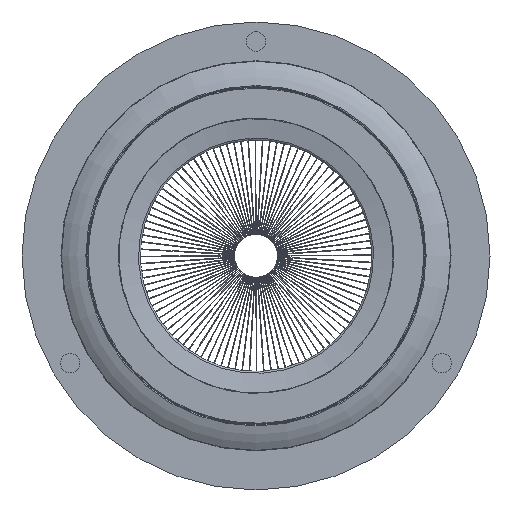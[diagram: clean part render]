
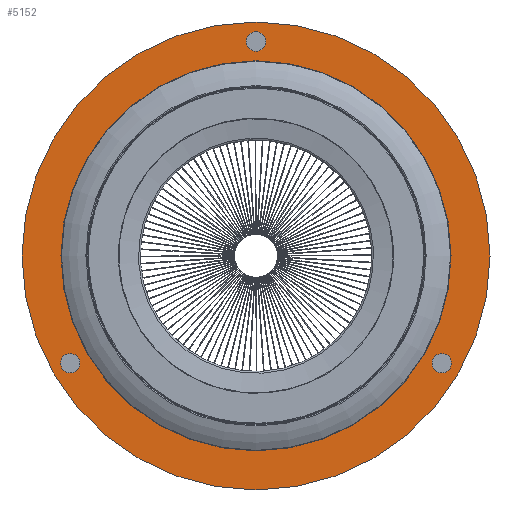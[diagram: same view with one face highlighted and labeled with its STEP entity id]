
A CAD part, top view. The second image highlights one B-rep face of the part: STEP entity #5152.
In plain terms, the highlighted planar face has unit normal (0, 0, 1).
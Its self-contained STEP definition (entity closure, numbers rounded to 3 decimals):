
#2006=CARTESIAN_POINT('',(-40.618,-24.75,5.0));
#2007=VERTEX_POINT('',#2006);
#2023=CARTESIAN_POINT('',(-42.868,-24.75,5.));
#2024=DIRECTION('',(0.0,0.0,-1.0));
#2025=DIRECTION('',(-1.0,0.0,0.0));
#2026=AXIS2_PLACEMENT_3D('',#2023,#2024,#2025);
#2027=CIRCLE('',#2026,2.25);
#2028=EDGE_CURVE('',#2007,#2007,#2027,.T.);
#2058=CARTESIAN_POINT('',(2.25,49.5,5.0));
#2059=VERTEX_POINT('',#2058);
#2075=CARTESIAN_POINT('',(0.,49.5,5.));
#2076=DIRECTION('',(0.0,0.0,-1.0));
#2077=DIRECTION('',(-1.0,0.0,0.0));
#2078=AXIS2_PLACEMENT_3D('',#2075,#2076,#2077);
#2079=CIRCLE('',#2078,2.25);
#2080=EDGE_CURVE('',#2059,#2059,#2079,.T.);
#2116=CARTESIAN_POINT('',(40.618,-24.75,5.));
#2117=VERTEX_POINT('',#2116);
#2156=CARTESIAN_POINT('',(-35.757,18.163,5.));
#2157=VERTEX_POINT('',#2156);
#2167=CARTESIAN_POINT('',(-35.757,-18.163,5.));
#2168=VERTEX_POINT('',#2167);
#2169=CARTESIAN_POINT('',(0.,0.0,5.0));
#2170=DIRECTION('',(0.0,0.0,-1.0));
#2171=DIRECTION('',(-1.0,0.0,0.0));
#2172=AXIS2_PLACEMENT_3D('',#2169,#2170,#2171);
#2173=CIRCLE('',#2172,40.105);
#2174=EDGE_CURVE('',#2168,#2157,#2173,.T.);
#2208=CARTESIAN_POINT('',(-33.608,-21.885,5.));
#2209=VERTEX_POINT('',#2208);
#2217=CARTESIAN_POINT('',(-2.149,-40.048,5.0));
#2218=VERTEX_POINT('',#2217);
#2219=CARTESIAN_POINT('',(0.,0.0,5.0));
#2220=DIRECTION('',(0.0,0.0,-1.0));
#2221=DIRECTION('',(-1.0,0.0,0.0));
#2222=AXIS2_PLACEMENT_3D('',#2219,#2220,#2221);
#2223=CIRCLE('',#2222,40.105);
#2224=EDGE_CURVE('',#2218,#2209,#2223,.T.);
#2258=CARTESIAN_POINT('',(2.149,-40.048,5.0));
#2259=VERTEX_POINT('',#2258);
#2267=CARTESIAN_POINT('',(33.608,-21.885,5.));
#2268=VERTEX_POINT('',#2267);
#2269=CARTESIAN_POINT('',(0.,0.0,5.0));
#2270=DIRECTION('',(0.0,0.0,-1.0));
#2271=DIRECTION('',(-1.0,0.0,0.0));
#2272=AXIS2_PLACEMENT_3D('',#2269,#2270,#2271);
#2273=CIRCLE('',#2272,40.105);
#2274=EDGE_CURVE('',#2268,#2259,#2273,.T.);
#2308=CARTESIAN_POINT('',(35.757,-18.163,5.));
#2309=VERTEX_POINT('',#2308);
#2317=CARTESIAN_POINT('',(35.757,18.163,5.));
#2318=VERTEX_POINT('',#2317);
#2319=CARTESIAN_POINT('',(0.,0.0,5.0));
#2320=DIRECTION('',(0.0,0.0,-1.0));
#2321=DIRECTION('',(-1.0,0.0,0.0));
#2322=AXIS2_PLACEMENT_3D('',#2319,#2320,#2321);
#2323=CIRCLE('',#2322,40.105);
#2324=EDGE_CURVE('',#2318,#2309,#2323,.T.);
#2358=CARTESIAN_POINT('',(33.608,21.885,5.));
#2359=VERTEX_POINT('',#2358);
#2367=CARTESIAN_POINT('',(2.149,40.048,5.0));
#2368=VERTEX_POINT('',#2367);
#2369=CARTESIAN_POINT('',(0.,0.0,5.0));
#2370=DIRECTION('',(0.0,0.0,-1.0));
#2371=DIRECTION('',(-1.0,0.0,0.0));
#2372=AXIS2_PLACEMENT_3D('',#2369,#2370,#2371);
#2373=CIRCLE('',#2372,40.105);
#2374=EDGE_CURVE('',#2368,#2359,#2373,.T.);
#2408=CARTESIAN_POINT('',(-2.149,40.048,5.0));
#2409=VERTEX_POINT('',#2408);
#2417=CARTESIAN_POINT('',(-33.608,21.885,5.));
#2418=VERTEX_POINT('',#2417);
#2419=CARTESIAN_POINT('',(0.,0.0,5.0));
#2420=DIRECTION('',(0.0,0.0,-1.0));
#2421=DIRECTION('',(-1.0,0.0,0.0));
#2422=AXIS2_PLACEMENT_3D('',#2419,#2420,#2421);
#2423=CIRCLE('',#2422,40.105);
#2424=EDGE_CURVE('',#2418,#2409,#2423,.T.);
#2510=CARTESIAN_POINT('',(-38.947,20.004,5.));
#2511=VERTEX_POINT('',#2510);
#2518=CARTESIAN_POINT('',(-38.947,20.004,5.));
#2519=DIRECTION('',(0.866,-0.5,0.0));
#2520=VECTOR('',#2519,3.683);
#2521=LINE('',#2518,#2520);
#2522=EDGE_CURVE('',#2511,#2157,#2521,.T.);
#2572=CARTESIAN_POINT('',(-36.798,23.727,5.));
#2573=VERTEX_POINT('',#2572);
#2574=CARTESIAN_POINT('',(-33.608,21.885,5.));
#2575=DIRECTION('',(-0.866,0.5,0.0));
#2576=VECTOR('',#2575,3.683);
#2577=LINE('',#2574,#2576);
#2578=EDGE_CURVE('',#2418,#2573,#2577,.T.);
#2638=CARTESIAN_POINT('',(-2.149,43.731,5.));
#2639=VERTEX_POINT('',#2638);
#2646=CARTESIAN_POINT('',(-2.149,43.731,5.0));
#2647=DIRECTION('',(0.0,-1.0,0.0));
#2648=VECTOR('',#2647,3.683);
#2649=LINE('',#2646,#2648);
#2650=EDGE_CURVE('',#2639,#2409,#2649,.T.);
#2700=CARTESIAN_POINT('',(2.149,43.731,5.));
#2701=VERTEX_POINT('',#2700);
#2702=CARTESIAN_POINT('',(2.149,40.048,5.0));
#2703=DIRECTION('',(0.0,1.0,0.0));
#2704=VECTOR('',#2703,3.683);
#2705=LINE('',#2702,#2704);
#2706=EDGE_CURVE('',#2368,#2701,#2705,.T.);
#2766=CARTESIAN_POINT('',(36.798,23.727,5.));
#2767=VERTEX_POINT('',#2766);
#2774=CARTESIAN_POINT('',(36.798,23.727,5.));
#2775=DIRECTION('',(-0.866,-0.5,0.0));
#2776=VECTOR('',#2775,3.683);
#2777=LINE('',#2774,#2776);
#2778=EDGE_CURVE('',#2767,#2359,#2777,.T.);
#2828=CARTESIAN_POINT('',(38.947,20.004,5.));
#2829=VERTEX_POINT('',#2828);
#2830=CARTESIAN_POINT('',(35.757,18.163,5.));
#2831=DIRECTION('',(0.866,0.5,0.0));
#2832=VECTOR('',#2831,3.683);
#2833=LINE('',#2830,#2832);
#2834=EDGE_CURVE('',#2318,#2829,#2833,.T.);
#2888=CARTESIAN_POINT('',(42.868,-24.75,5.));
#2889=DIRECTION('',(0.0,0.0,-1.0));
#2890=DIRECTION('',(-1.0,0.0,0.0));
#2891=AXIS2_PLACEMENT_3D('',#2888,#2889,#2890);
#2892=CIRCLE('',#2891,2.25);
#2893=EDGE_CURVE('',#2117,#2117,#2892,.T.);
#2945=CARTESIAN_POINT('',(54.,0.0,5.));
#2946=VERTEX_POINT('',#2945);
#2947=CARTESIAN_POINT('',(0.,0.0,5.));
#2948=DIRECTION('',(0.0,0.0,-1.0));
#2949=DIRECTION('',(1.0,0.0,0.0));
#2950=AXIS2_PLACEMENT_3D('',#2947,#2948,#2949);
#2951=CIRCLE('',#2950,54.);
#2952=EDGE_CURVE('',#2946,#2946,#2951,.T.);
#4073=CARTESIAN_POINT('',(2.149,-43.731,5.));
#4074=VERTEX_POINT('',#4073);
#4082=CARTESIAN_POINT('',(-2.149,-43.731,5.));
#4083=VERTEX_POINT('',#4082);
#4090=CARTESIAN_POINT('',(-2.149,-43.731,5.));
#4091=DIRECTION('',(1.0,0.0,0.0));
#4092=VECTOR('',#4091,4.298);
#4093=LINE('',#4090,#4092);
#4094=EDGE_CURVE('',#4083,#4074,#4093,.T.);
#4312=CARTESIAN_POINT('',(-36.798,-23.727,5.));
#4313=VERTEX_POINT('',#4312);
#4321=CARTESIAN_POINT('',(-38.947,-20.004,5.));
#4322=VERTEX_POINT('',#4321);
#4329=CARTESIAN_POINT('',(-38.947,-20.004,5.));
#4330=DIRECTION('',(0.5,-0.866,0.0));
#4331=VECTOR('',#4330,4.298);
#4332=LINE('',#4329,#4331);
#4333=EDGE_CURVE('',#4322,#4313,#4332,.T.);
#4550=CARTESIAN_POINT('',(-36.798,23.727,5.));
#4551=DIRECTION('',(-0.5,-0.866,0.0));
#4552=VECTOR('',#4551,4.298);
#4553=LINE('',#4550,#4552);
#4554=EDGE_CURVE('',#2573,#2511,#4553,.T.);
#4771=CARTESIAN_POINT('',(2.149,43.731,5.));
#4772=DIRECTION('',(-1.0,0.0,0.0));
#4773=VECTOR('',#4772,4.298);
#4774=LINE('',#4771,#4773);
#4775=EDGE_CURVE('',#2701,#2639,#4774,.T.);
#4985=CARTESIAN_POINT('',(38.947,20.004,5.));
#4986=DIRECTION('',(-0.5,0.866,0.0));
#4987=VECTOR('',#4986,4.298);
#4988=LINE('',#4985,#4987);
#4989=EDGE_CURVE('',#2829,#2767,#4988,.T.);
#5053=CARTESIAN_POINT('',(38.947,-20.004,5.));
#5054=VERTEX_POINT('',#5053);
#5062=CARTESIAN_POINT('',(36.798,-23.727,5.));
#5063=VERTEX_POINT('',#5062);
#5070=CARTESIAN_POINT('',(36.798,-23.727,5.));
#5071=DIRECTION('',(0.5,0.866,0.0));
#5072=VECTOR('',#5071,4.298);
#5073=LINE('',#5070,#5072);
#5074=EDGE_CURVE('',#5063,#5054,#5073,.T.);
#5079=CARTESIAN_POINT('',(0.,0.0,5.0));
#5080=DIRECTION('',(0.0,0.0,-1.0));
#5081=DIRECTION('',(-1.0,0.0,0.0));
#5082=AXIS2_PLACEMENT_3D('',#5079,#5080,#5081);
#5083=PLANE('',#5082);
#5084=ORIENTED_EDGE('',*,*,#2952,.F.);
#5085=EDGE_LOOP('',(#5084));
#5086=FACE_OUTER_BOUND('',#5085,.T.);
#5087=ORIENTED_EDGE('',*,*,#2174,.T.);
#5088=ORIENTED_EDGE('',*,*,#2522,.F.);
#5089=ORIENTED_EDGE('',*,*,#4554,.F.);
#5090=ORIENTED_EDGE('',*,*,#2578,.F.);
#5091=ORIENTED_EDGE('',*,*,#2424,.T.);
#5092=ORIENTED_EDGE('',*,*,#2650,.F.);
#5093=ORIENTED_EDGE('',*,*,#4775,.F.);
#5094=ORIENTED_EDGE('',*,*,#2706,.F.);
#5095=ORIENTED_EDGE('',*,*,#2374,.T.);
#5096=ORIENTED_EDGE('',*,*,#2778,.F.);
#5097=ORIENTED_EDGE('',*,*,#4989,.F.);
#5098=ORIENTED_EDGE('',*,*,#2834,.F.);
#5099=ORIENTED_EDGE('',*,*,#2324,.T.);
#5100=CARTESIAN_POINT('',(38.947,-20.004,5.));
#5101=DIRECTION('',(-0.866,0.5,0.0));
#5102=VECTOR('',#5101,3.683);
#5103=LINE('',#5100,#5102);
#5104=EDGE_CURVE('',#5054,#2309,#5103,.T.);
#5105=ORIENTED_EDGE('',*,*,#5104,.F.);
#5106=ORIENTED_EDGE('',*,*,#5074,.F.);
#5107=CARTESIAN_POINT('',(33.608,-21.885,5.));
#5108=DIRECTION('',(0.866,-0.5,0.0));
#5109=VECTOR('',#5108,3.683);
#5110=LINE('',#5107,#5109);
#5111=EDGE_CURVE('',#2268,#5063,#5110,.T.);
#5112=ORIENTED_EDGE('',*,*,#5111,.F.);
#5113=ORIENTED_EDGE('',*,*,#2274,.T.);
#5114=CARTESIAN_POINT('',(2.149,-43.731,5.0));
#5115=DIRECTION('',(0.0,1.0,0.0));
#5116=VECTOR('',#5115,3.683);
#5117=LINE('',#5114,#5116);
#5118=EDGE_CURVE('',#4074,#2259,#5117,.T.);
#5119=ORIENTED_EDGE('',*,*,#5118,.F.);
#5120=ORIENTED_EDGE('',*,*,#4094,.F.);
#5121=CARTESIAN_POINT('',(-2.149,-40.048,5.0));
#5122=DIRECTION('',(0.0,-1.0,0.0));
#5123=VECTOR('',#5122,3.683);
#5124=LINE('',#5121,#5123);
#5125=EDGE_CURVE('',#2218,#4083,#5124,.T.);
#5126=ORIENTED_EDGE('',*,*,#5125,.F.);
#5127=ORIENTED_EDGE('',*,*,#2224,.T.);
#5128=CARTESIAN_POINT('',(-36.798,-23.727,5.));
#5129=DIRECTION('',(0.866,0.5,0.0));
#5130=VECTOR('',#5129,3.683);
#5131=LINE('',#5128,#5130);
#5132=EDGE_CURVE('',#4313,#2209,#5131,.T.);
#5133=ORIENTED_EDGE('',*,*,#5132,.F.);
#5134=ORIENTED_EDGE('',*,*,#4333,.F.);
#5135=CARTESIAN_POINT('',(-35.757,-18.163,5.));
#5136=DIRECTION('',(-0.866,-0.5,0.0));
#5137=VECTOR('',#5136,3.683);
#5138=LINE('',#5135,#5137);
#5139=EDGE_CURVE('',#2168,#4322,#5138,.T.);
#5140=ORIENTED_EDGE('',*,*,#5139,.F.);
#5141=EDGE_LOOP('',(#5087,#5088,#5089,#5090,#5091,#5092,#5093,#5094,#5095,#5096,#5097,#5098,#5099,#5105,#5106,#5112,#5113,#5119,#5120,#5126,#5127,#5133,#5134,#5140));
#5142=FACE_BOUND('',#5141,.T.);
#5143=ORIENTED_EDGE('',*,*,#2893,.T.);
#5144=EDGE_LOOP('',(#5143));
#5145=FACE_BOUND('',#5144,.T.);
#5146=ORIENTED_EDGE('',*,*,#2028,.T.);
#5147=EDGE_LOOP('',(#5146));
#5148=FACE_BOUND('',#5147,.T.);
#5149=ORIENTED_EDGE('',*,*,#2080,.T.);
#5150=EDGE_LOOP('',(#5149));
#5151=FACE_BOUND('',#5150,.T.);
#5152=ADVANCED_FACE('',(#5086,#5142,#5145,#5148,#5151),#5083,.F.);
